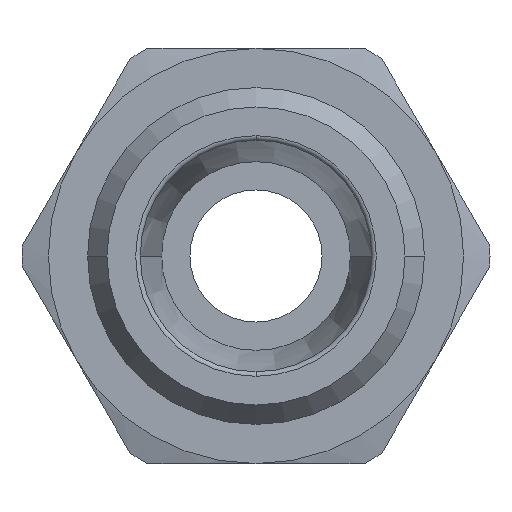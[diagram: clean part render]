
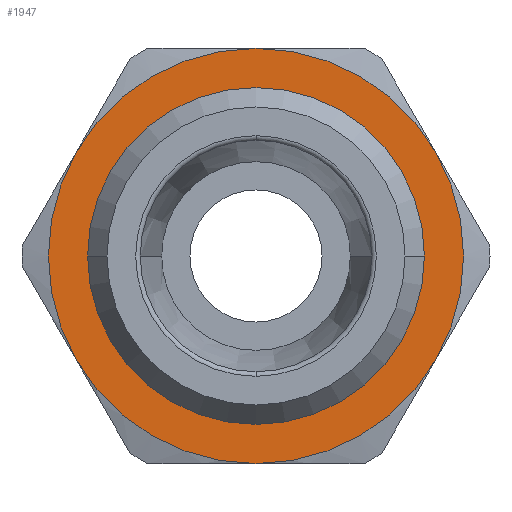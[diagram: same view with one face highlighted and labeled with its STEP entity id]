
A CAD part, left-side view. The second image highlights one B-rep face of the part: STEP entity #1947.
In plain terms, the highlighted planar face has unit normal (-1, 0, 0) as drawn and (0, 0, 1) by its records, which use the part's own axes.
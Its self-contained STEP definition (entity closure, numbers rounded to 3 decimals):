
#857=CARTESIAN_POINT('',(-8.8,0.,4.0));
#858=VERTEX_POINT('',#857);
#884=CARTESIAN_POINT('',(8.8,0.,4.0));
#885=VERTEX_POINT('',#884);
#893=CARTESIAN_POINT('',(0.,0.,4.0));
#894=DIRECTION('',(0.0,0.0,1.0));
#895=DIRECTION('',(-1.0,0.0,0.0));
#896=AXIS2_PLACEMENT_3D('',#893,#894,#895);
#897=CIRCLE('',#896,8.8);
#898=EDGE_CURVE('',#885,#858,#897,.T.);
#1827=CARTESIAN_POINT('',(0.,-8.8,4.));
#1828=VERTEX_POINT('',#1827);
#1829=CARTESIAN_POINT('',(0.,0.,4.0));
#1830=DIRECTION('',(0.0,0.0,1.0));
#1831=DIRECTION('',(-1.0,0.0,0.0));
#1832=AXIS2_PLACEMENT_3D('',#1829,#1830,#1831);
#1833=CIRCLE('',#1832,8.8);
#1834=EDGE_CURVE('',#858,#1828,#1833,.T.);
#1836=CARTESIAN_POINT('',(0.,0.,4.0));
#1837=DIRECTION('',(0.0,0.0,1.0));
#1838=DIRECTION('',(-1.0,0.0,0.0));
#1839=AXIS2_PLACEMENT_3D('',#1836,#1837,#1838);
#1840=CIRCLE('',#1839,8.8);
#1841=EDGE_CURVE('',#1828,#885,#1840,.T.);
#1881=CARTESIAN_POINT('',(0.,0.,4.0));
#1882=DIRECTION('',(0.0,0.0,1.0));
#1883=DIRECTION('',(1.0,0.0,0.0));
#1884=AXIS2_PLACEMENT_3D('',#1881,#1882,#1883);
#1885=PLANE('',#1884);
#1886=CARTESIAN_POINT('',(5.5,-9.526,4.));
#1887=VERTEX_POINT('',#1886);
#1888=CARTESIAN_POINT('',(11.,0.0,4.));
#1889=VERTEX_POINT('',#1888);
#1890=CARTESIAN_POINT('',(0.,0.0,4.0));
#1891=DIRECTION('',(0.0,0.0,1.0));
#1892=DIRECTION('',(1.0,0.0,0.0));
#1893=AXIS2_PLACEMENT_3D('',#1890,#1891,#1892);
#1894=CIRCLE('',#1893,11.);
#1895=EDGE_CURVE('',#1887,#1889,#1894,.T.);
#1896=ORIENTED_EDGE('',*,*,#1895,.T.);
#1897=CARTESIAN_POINT('',(5.5,9.526,4.));
#1898=VERTEX_POINT('',#1897);
#1899=CARTESIAN_POINT('',(0.,0.0,4.0));
#1900=DIRECTION('',(0.0,0.0,1.0));
#1901=DIRECTION('',(1.0,0.0,0.0));
#1902=AXIS2_PLACEMENT_3D('',#1899,#1900,#1901);
#1903=CIRCLE('',#1902,11.);
#1904=EDGE_CURVE('',#1889,#1898,#1903,.T.);
#1905=ORIENTED_EDGE('',*,*,#1904,.T.);
#1906=CARTESIAN_POINT('',(-5.5,9.526,4.));
#1907=VERTEX_POINT('',#1906);
#1908=CARTESIAN_POINT('',(0.,0.0,4.0));
#1909=DIRECTION('',(0.0,0.0,1.0));
#1910=DIRECTION('',(1.0,0.0,0.0));
#1911=AXIS2_PLACEMENT_3D('',#1908,#1909,#1910);
#1912=CIRCLE('',#1911,11.);
#1913=EDGE_CURVE('',#1898,#1907,#1912,.T.);
#1914=ORIENTED_EDGE('',*,*,#1913,.T.);
#1915=CARTESIAN_POINT('',(-11.0,0.,4.));
#1916=VERTEX_POINT('',#1915);
#1917=CARTESIAN_POINT('',(0.,0.0,4.0));
#1918=DIRECTION('',(0.0,0.0,1.0));
#1919=DIRECTION('',(1.0,0.0,0.0));
#1920=AXIS2_PLACEMENT_3D('',#1917,#1918,#1919);
#1921=CIRCLE('',#1920,11.);
#1922=EDGE_CURVE('',#1907,#1916,#1921,.T.);
#1923=ORIENTED_EDGE('',*,*,#1922,.T.);
#1924=CARTESIAN_POINT('',(-5.5,-9.526,4.));
#1925=VERTEX_POINT('',#1924);
#1926=CARTESIAN_POINT('',(0.,0.0,4.0));
#1927=DIRECTION('',(0.0,0.0,1.0));
#1928=DIRECTION('',(1.0,0.0,0.0));
#1929=AXIS2_PLACEMENT_3D('',#1926,#1927,#1928);
#1930=CIRCLE('',#1929,11.);
#1931=EDGE_CURVE('',#1916,#1925,#1930,.T.);
#1932=ORIENTED_EDGE('',*,*,#1931,.T.);
#1933=CARTESIAN_POINT('',(0.,0.0,4.0));
#1934=DIRECTION('',(0.0,0.0,1.0));
#1935=DIRECTION('',(1.0,0.0,0.0));
#1936=AXIS2_PLACEMENT_3D('',#1933,#1934,#1935);
#1937=CIRCLE('',#1936,11.);
#1938=EDGE_CURVE('',#1925,#1887,#1937,.T.);
#1939=ORIENTED_EDGE('',*,*,#1938,.T.);
#1940=EDGE_LOOP('',(#1896,#1905,#1914,#1923,#1932,#1939));
#1941=FACE_OUTER_BOUND('',#1940,.T.);
#1942=ORIENTED_EDGE('',*,*,#1841,.F.);
#1943=ORIENTED_EDGE('',*,*,#1834,.F.);
#1944=ORIENTED_EDGE('',*,*,#898,.F.);
#1945=EDGE_LOOP('',(#1942,#1943,#1944));
#1946=FACE_BOUND('',#1945,.T.);
#1947=ADVANCED_FACE('',(#1941,#1946),#1885,.T.);
